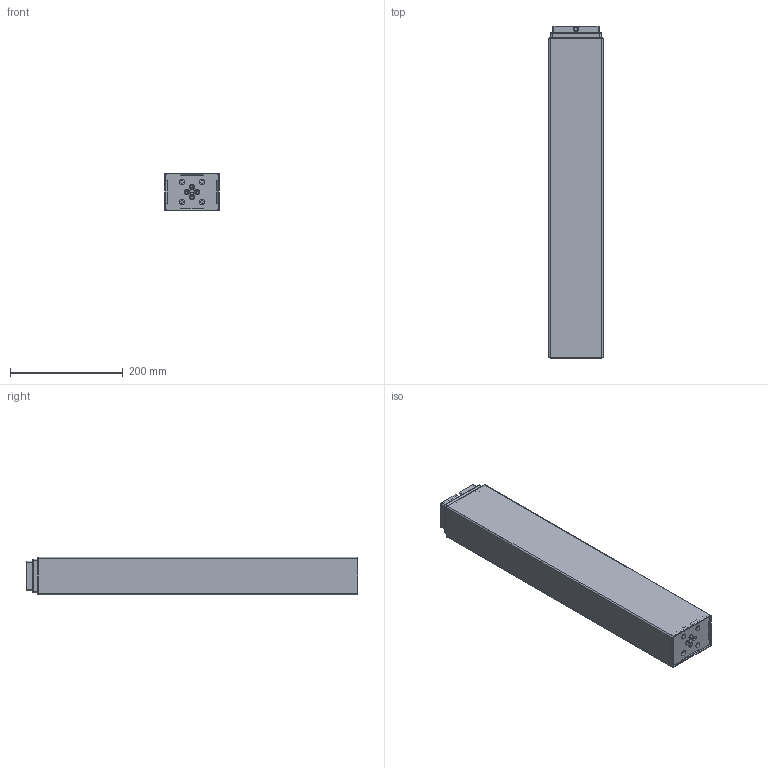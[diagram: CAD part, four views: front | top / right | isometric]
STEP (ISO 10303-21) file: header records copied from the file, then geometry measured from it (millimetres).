
FILE_DESCRIPTION (( 'STEP AP203' ), '1' );
FILE_NAME ('3D_TL35S.STEP', '2022-02-14T07:13:28', ( '' ), ( '' ), 'SwSTEP 2.0', 'SolidWorks 2015', '' );
FILE_SCHEMA (( 'CONFIG_CONTROL_DESIGN' ));
Length unit declared in the file: millimetre
Products named in the file (9): 三維零件圖-32317-2005-553-中層管烤漆-0_箇砞<诀竟>; 三維零件圖-33410-049-橡膠墊圈-A; 三維零件圖-32317-1917-547-內層管烤漆-0_箇砞<诀竟>; 三維零件圖-33410-100-橡膠墊-0_箇砞<诀竟>; 三維零件圖-33105-106-外管防擺環-0; 3D_TL35S; 三維零件圖-32317-3001-566-外層管烤漆-0_箇砞<诀竟>; 三維零件圖-33105-088-中管防擺環-A; 三維零件圖-33903-356-公制螺絲-A
Assembly tree (10 placements, depth 2):
  3D_TL35S
    三維零件圖-32317-1917-547-內層管烤漆-0_箇砞<诀竟>
    三維零件圖-32317-3001-566-外層管烤漆-0_箇砞<诀竟>
    三維零件圖-33105-106-外管防擺環-0
    三維零件圖-33105-088-中管防擺環-A
    三維零件圖-33410-049-橡膠墊圈-A  x2
    三維零件圖-33903-356-公制螺絲-A  x2
    三維零件圖-33410-100-橡膠墊-0_箇砞<诀竟>
    三維零件圖-32317-2005-553-中層管烤漆-0_箇砞<诀竟>
Bounding box: 97 x 588.3 x 67 mm (x, y, z)
Volume: 843747.5 mm3; surface area: 1041724.6 mm2
Topology: 20 solids, 20 shells, 2106 faces, 5378 edges, 3311 vertices
Faces by surface type: cylinder 829, plane 744, torus 310, bspline 104, sphere 68, cone 51
Entity records: 71203 total; most frequent: CARTESIAN_POINT 20879, DIRECTION 10448, ORIENTED_EDGE 10386, EDGE_CURVE 5193, AXIS2_PLACEMENT_3D 3813, VERTEX_POINT 3201, VECTOR 2822, LINE 2822
